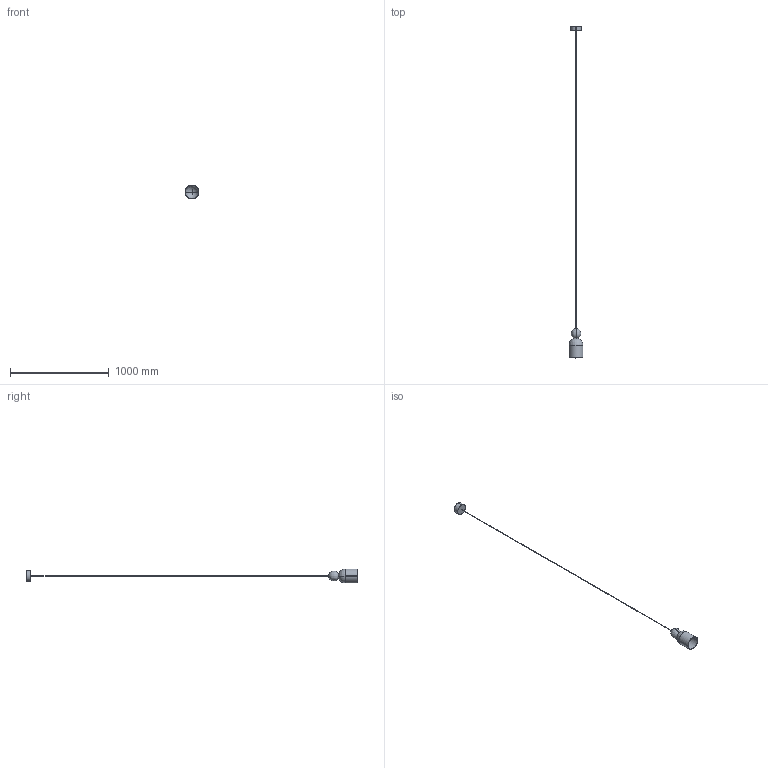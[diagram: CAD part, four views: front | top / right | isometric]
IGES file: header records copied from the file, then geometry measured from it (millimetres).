
Start section: SolidWorks IGES file using analytic representation for surfaces
Global section: file name: C:\Users\adrian\Desktop\MODELADOS USA\BELL\BELL_CU1084.IGS; native system: SolidWorks 2023; preprocessor: SolidWorks 2023; author: adrian; date: 260605.092837; units: inch
Bounding box: 140 x 3355.04 x 140 mm (x, y, z)
Surface area: 269329.7 mm2 (no closed solid volume)
Topology: 0 solids, 0 shells, 26 faces, 520 edges, 517 vertices
Faces by surface type: revolution 18, bspline 8
